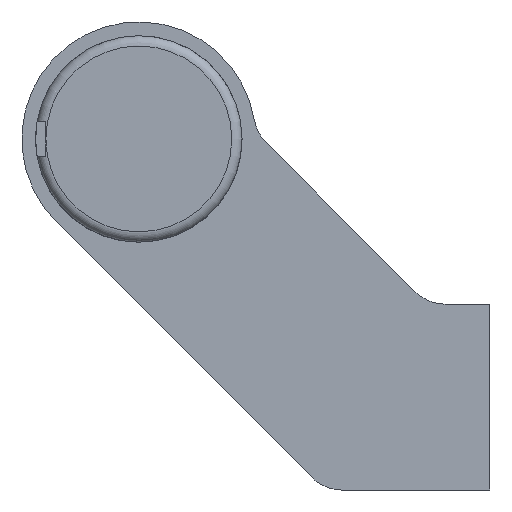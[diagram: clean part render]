
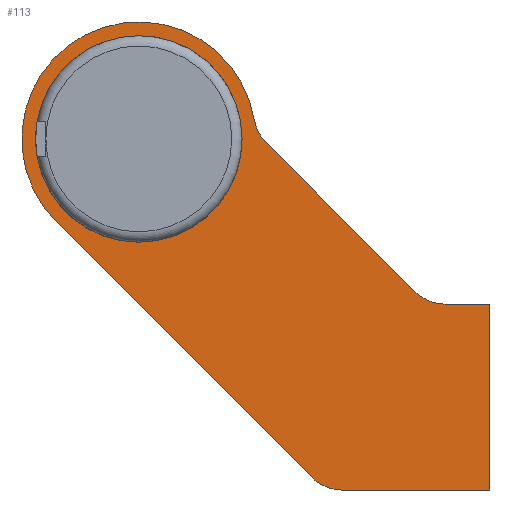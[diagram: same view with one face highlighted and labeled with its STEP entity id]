
A CAD part, left-side view. The second image highlights one B-rep face of the part: STEP entity #113.
In plain terms, the highlighted planar face has unit normal (-1, 0, 0).
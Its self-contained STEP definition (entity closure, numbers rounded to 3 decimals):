
#113 = ADVANCED_FACE( '', ( #212, #213 ), #214, .F. );
#212 = FACE_BOUND( '', #325, .T. );
#213 = FACE_OUTER_BOUND( '', #326, .T. );
#214 = PLANE( '', #327 );
#325 = EDGE_LOOP( '', ( #621 ) );
#326 = EDGE_LOOP( '', ( #622, #623, #624, #625, #626, #627, #628, #629, #630 ) );
#327 = AXIS2_PLACEMENT_3D( '', #631, #632, #633 );
#621 = ORIENTED_EDGE( '', *, *, #734, .T. );
#622 = ORIENTED_EDGE( '', *, *, #761, .F. );
#623 = ORIENTED_EDGE( '', *, *, #735, .F. );
#624 = ORIENTED_EDGE( '', *, *, #739, .F. );
#625 = ORIENTED_EDGE( '', *, *, #743, .F. );
#626 = ORIENTED_EDGE( '', *, *, #746, .F. );
#627 = ORIENTED_EDGE( '', *, *, #749, .T. );
#628 = ORIENTED_EDGE( '', *, *, #752, .F. );
#629 = ORIENTED_EDGE( '', *, *, #755, .T. );
#630 = ORIENTED_EDGE( '', *, *, #758, .F. );
#631 = CARTESIAN_POINT( '', ( -208.5, 51., 37.5 ) );
#632 = DIRECTION( '', ( 1., 0., 0. ) );
#633 = DIRECTION( '', ( 0., 0., -1. ) );
#734 = EDGE_CURVE( '', #866, #866, #867, .T. );
#735 = EDGE_CURVE( '', #868, #869, #870, .T. );
#739 = EDGE_CURVE( '', #876, #868, #877, .T. );
#743 = EDGE_CURVE( '', #883, #876, #884, .T. );
#746 = EDGE_CURVE( '', #888, #883, #889, .T. );
#749 = EDGE_CURVE( '', #888, #893, #894, .T. );
#752 = EDGE_CURVE( '', #898, #893, #899, .T. );
#755 = EDGE_CURVE( '', #898, #903, #904, .T. );
#758 = EDGE_CURVE( '', #908, #903, #909, .T. );
#761 = EDGE_CURVE( '', #869, #908, #913, .T. );
#866 = VERTEX_POINT( '', #1114 );
#867 = CIRCLE( '', #1115, 15. );
#868 = VERTEX_POINT( '', #1116 );
#869 = VERTEX_POINT( '', #1117 );
#870 = CIRCLE( '', #1118, 6. );
#876 = VERTEX_POINT( '', #1126 );
#877 = LINE( '', #1127, #1128 );
#883 = VERTEX_POINT( '', #1136 );
#884 = LINE( '', #1137, #1138 );
#888 = VERTEX_POINT( '', #1144 );
#889 = LINE( '', #1145, #1146 );
#893 = VERTEX_POINT( '', #1152 );
#894 = CIRCLE( '', #1153, 6. );
#898 = VERTEX_POINT( '', #1158 );
#899 = LINE( '', #1159, #1160 );
#903 = VERTEX_POINT( '', #1166 );
#904 = CIRCLE( '', #1167, 6. );
#908 = VERTEX_POINT( '', #1172 );
#909 = CIRCLE( '', #1173, 17. );
#913 = LINE( '', #1178, #1179 );
#1114 = CARTESIAN_POINT( '', ( -208.5, 51., 22.5 ) );
#1115 = AXIS2_PLACEMENT_3D( '', #1285, #1286, #1287 );
#1116 = CARTESIAN_POINT( '', ( -208.5, 21.556, -13.5 ) );
#1117 = CARTESIAN_POINT( '', ( -208.5, 25.799, -11.743 ) );
#1118 = AXIS2_PLACEMENT_3D( '', #1288, #1289, #1290 );
#1126 = CARTESIAN_POINT( '', ( -208.5, 0., -13.5 ) );
#1127 = CARTESIAN_POINT( '', ( -208.5, 0., -13.5 ) );
#1128 = VECTOR( '', #1296, 1000. );
#1136 = CARTESIAN_POINT( '', ( -208.5, 0., 13.5 ) );
#1137 = CARTESIAN_POINT( '', ( -208.5, 0., 13.5 ) );
#1138 = VECTOR( '', #1302, 1000. );
#1144 = CARTESIAN_POINT( '', ( -208.5, 6.515, 13.5 ) );
#1145 = CARTESIAN_POINT( '', ( -208.5, 6.515, 13.5 ) );
#1146 = VECTOR( '', #1305, 1000. );
#1152 = CARTESIAN_POINT( '', ( -208.5, 10.757, 15.257 ) );
#1153 = AXIS2_PLACEMENT_3D( '', #1308, #1309, #1310 );
#1158 = CARTESIAN_POINT( '', ( -208.5, 32.559, 37.059 ) );
#1159 = CARTESIAN_POINT( '', ( -208.5, 32.559, 37.059 ) );
#1160 = VECTOR( '', #1315, 1000. );
#1166 = CARTESIAN_POINT( '', ( -208.5, 34.234, 40.31 ) );
#1167 = AXIS2_PLACEMENT_3D( '', #1318, #1319, #1320 );
#1172 = CARTESIAN_POINT( '', ( -208.5, 63.021, 25.479 ) );
#1173 = AXIS2_PLACEMENT_3D( '', #1325, #1326, #1327 );
#1178 = CARTESIAN_POINT( '', ( -208.5, 25.799, -11.743 ) );
#1179 = VECTOR( '', #1332, 1000. );
#1285 = CARTESIAN_POINT( '', ( -208.5, 51., 37.5 ) );
#1286 = DIRECTION( '', ( 1., 0., 0. ) );
#1287 = DIRECTION( '', ( 0., 0., -1. ) );
#1288 = CARTESIAN_POINT( '', ( -208.5, 21.556, -7.5 ) );
#1289 = DIRECTION( '', ( 1., 0., 0. ) );
#1290 = DIRECTION( '', ( 0., 0., -1. ) );
#1296 = DIRECTION( '', ( 0., 1., 0. ) );
#1302 = DIRECTION( '', ( 0., 0., -1. ) );
#1305 = DIRECTION( '', ( 0., -1., 0. ) );
#1308 = CARTESIAN_POINT( '', ( -208.5, 6.515, 19.5 ) );
#1309 = DIRECTION( '', ( 1., 0., 0. ) );
#1310 = DIRECTION( '', ( 0., 0., -1. ) );
#1315 = DIRECTION( '', ( 0., -0.707, -0.707 ) );
#1318 = CARTESIAN_POINT( '', ( -208.5, 28.316, 41.302 ) );
#1319 = DIRECTION( '', ( 1., 0., 0. ) );
#1320 = DIRECTION( '', ( 0., 0., -1. ) );
#1325 = CARTESIAN_POINT( '', ( -208.5, 51., 37.5 ) );
#1326 = DIRECTION( '', ( 1., 0., 0. ) );
#1327 = DIRECTION( '', ( 0., 0., -1. ) );
#1332 = DIRECTION( '', ( 0., 0.707, 0.707 ) );
